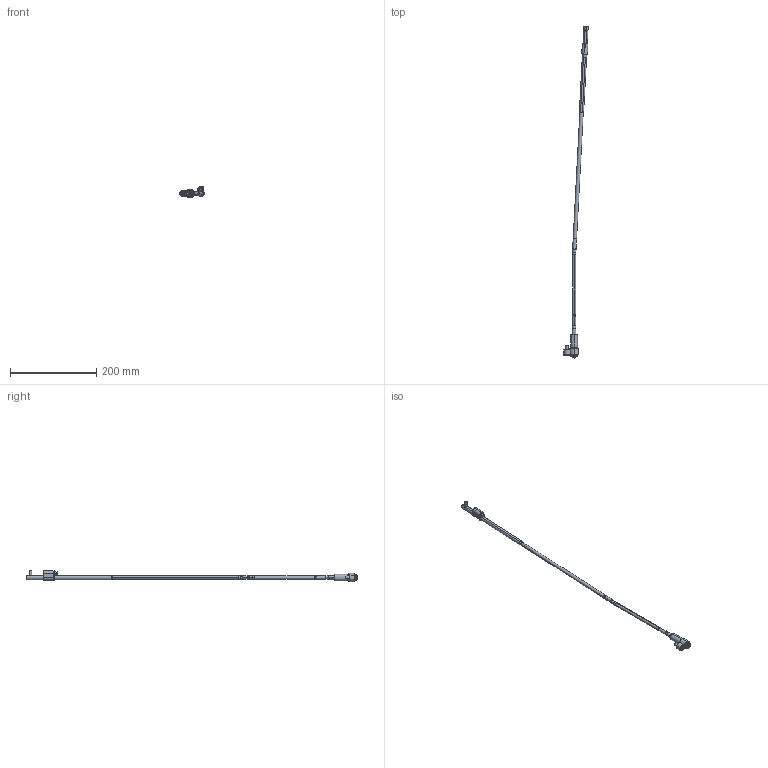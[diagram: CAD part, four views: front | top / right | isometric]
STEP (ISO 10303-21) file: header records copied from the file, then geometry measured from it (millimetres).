
FILE_DESCRIPTION (( 'STEP AP214' ), '1' );
FILE_NAME ('WL080125-INJ 3°.STEP', '2021-03-19T15:31:11', ( '' ), ( '' ), 'SwSTEP 2.0', 'SolidWorks 2019', '' );
FILE_SCHEMA (( 'AUTOMOTIVE_DESIGN' ));
Length unit declared in the file: millimetre
Products named in the file (17): WL080100-C; 3IMAN4X2-150_con sello; 1DIN912545_DIN 912 M5 x 50 --- 50C; Web-WL08XX-A7_OFF-WL080125-3; WL080125-INJ 3°; Web-WL08-A2; Web-WL08-A1; 1DIN912616_DIN 912 M6 x 16 --- 16C; WL080100-E; Web-WL08-F01; Web-WP08-1; 9DR2206-TOR; WL080100-B1_WL0800FF-1; WL080100-B_WL0800FF; Web-WL08-A3; Web-WL08-F00.SLDPRT; WL080100-D
Assembly tree (16 placements, depth 3):
  WL080125-INJ 3°
    Web-WP08-1
    Web-WL08XX-A7_OFF-WL080125-3
    Web-WL08-A3
    Web-WL08-A2
    Web-WL08-A1
    WL080100-D
    WL080100-C
    WL080100-B_WL0800FF
      WL080100-B1_WL0800FF-1
      3IMAN4X2-150_con sello
    WL080100-E
    9DR2206-TOR
    Web-WL08-F00.SLDPRT
      Web-WL08-F01
      1DIN912545_DIN 912 M5 x 50 --- 50C
      1DIN912616_DIN 912 M6 x 16 --- 16C
Bounding box: 56.58 x 771.52 x 26.9 mm (x, y, z)
Volume: 58701.4 mm3; surface area: 34415.9 mm2
Topology: 15 solids, 15 shells, 424 faces, 888 edges, 516 vertices
Faces by surface type: plane 132, cylinder 128, cone 116, torus 48
Entity records: 13492 total; most frequent: DIRECTION 2218, CARTESIAN_POINT 2045, ORIENTED_EDGE 1756, AXIS2_PLACEMENT_3D 921, EDGE_CURVE 878, VERTEX_POINT 516, CIRCLE 476, EDGE_LOOP 468
